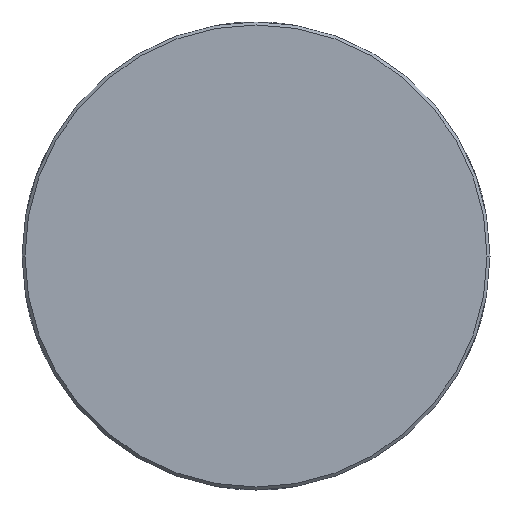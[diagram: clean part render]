
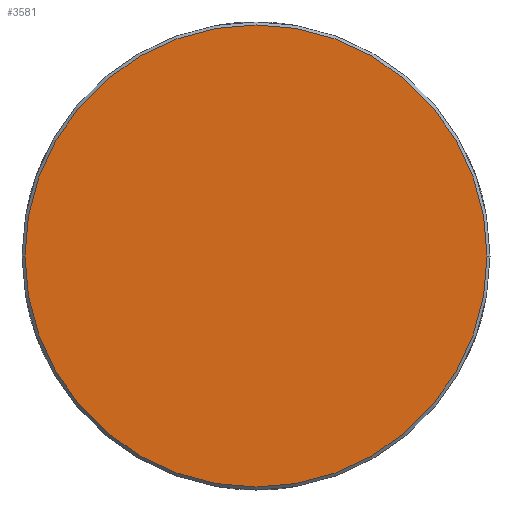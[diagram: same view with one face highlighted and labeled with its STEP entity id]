
A CAD part, front view. The second image highlights one B-rep face of the part: STEP entity #3581.
In plain terms, the highlighted planar face has unit normal (0, -1, 0).
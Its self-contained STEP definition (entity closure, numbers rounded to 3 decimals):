
#71 = DIRECTION ( 'NONE',  ( 1., 0., 0. ) ) ;
#267 = CARTESIAN_POINT ( 'NONE',  ( 0., 0., 0. ) ) ;
#401 = AXIS2_PLACEMENT_3D ( 'NONE', #2881, #4655, #71 ) ;
#1914 = VERTEX_POINT ( 'NONE', #4071 ) ;
#2373 = VERTEX_POINT ( 'NONE', #4174 ) ;
#2716 = ORIENTED_EDGE ( 'NONE', *, *, #3549, .T. ) ;
#2881 = CARTESIAN_POINT ( 'NONE',  ( 0., 0., 0. ) ) ;
#2927 = CARTESIAN_POINT ( 'NONE',  ( 0., 0., 0. ) ) ;
#3101 = CIRCLE ( 'NONE', #4250, 77.5 ) ;
#3286 = PLANE ( 'NONE',  #4586 ) ;
#3549 = EDGE_CURVE ( 'NONE', #1914, #2373, #5179, .T. ) ;
#3581 = ADVANCED_FACE ( 'NONE', ( #5235 ), #3286, .F. ) ;
#3828 = EDGE_LOOP ( 'NONE', ( #4170, #2716 ) ) ;
#3911 = DIRECTION ( 'NONE',  ( 0., -1., 0. ) ) ;
#4071 = CARTESIAN_POINT ( 'NONE',  ( -77.5, 0., 0. ) ) ;
#4170 = ORIENTED_EDGE ( 'NONE', *, *, #5099, .T. ) ;
#4174 = CARTESIAN_POINT ( 'NONE',  ( 77.5, 0., 0. ) ) ;
#4178 = DIRECTION ( 'NONE',  ( 0., 1., 0. ) ) ;
#4250 = AXIS2_PLACEMENT_3D ( 'NONE', #267, #3911, #4301 ) ;
#4301 = DIRECTION ( 'NONE',  ( 1., 0., 0. ) ) ;
#4586 = AXIS2_PLACEMENT_3D ( 'NONE', #2927, #4178, #4767 ) ;
#4655 = DIRECTION ( 'NONE',  ( 0., -1., 0. ) ) ;
#4767 = DIRECTION ( 'NONE',  ( 1., 0., 0. ) ) ;
#5099 = EDGE_CURVE ( 'NONE', #2373, #1914, #3101, .T. ) ;
#5179 = CIRCLE ( 'NONE', #401, 77.5 ) ;
#5235 = FACE_OUTER_BOUND ( 'NONE', #3828, .T. ) ;
